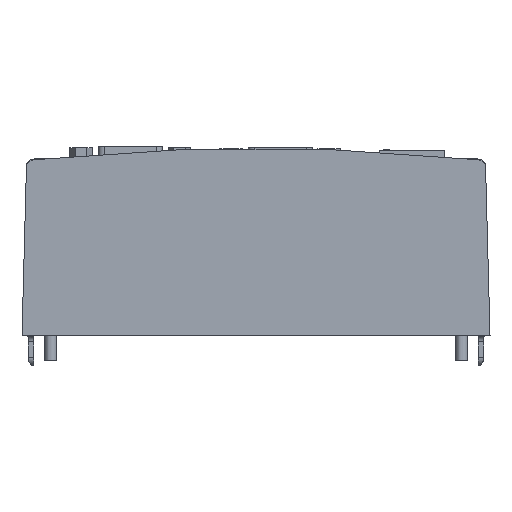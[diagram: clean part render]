
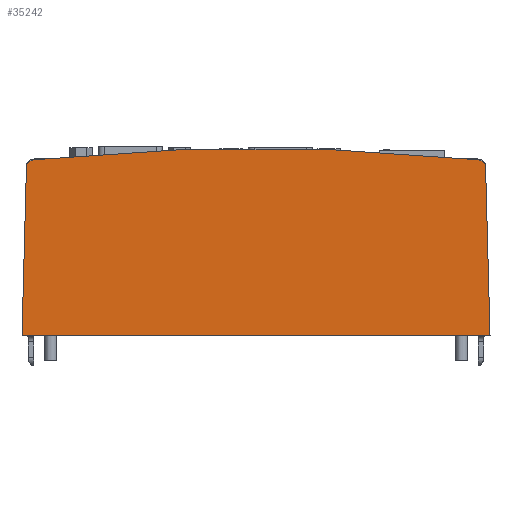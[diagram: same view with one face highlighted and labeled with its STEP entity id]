
A CAD part, left-side view. The second image highlights one B-rep face of the part: STEP entity #35242.
In plain terms, the highlighted planar face has unit normal (-1, 0, 0).
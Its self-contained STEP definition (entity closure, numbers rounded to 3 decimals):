
#1599=PLANE('',#37287);
#3342=FACE_OUTER_BOUND('',#5345,.T.);
#5345=EDGE_LOOP('',(#29841,#29842,#29843,#29844,#29845,#29846));
#9193=LINE('',#57037,#12675);
#9198=LINE('',#57054,#12680);
#9200=LINE('',#57059,#12682);
#12675=VECTOR('',#43703,10.);
#12680=VECTOR('',#43720,10.);
#12682=VECTOR('',#43728,10.);
#13840=CIRCLE('',#37275,2.);
#13844=CIRCLE('',#37282,2.);
#13845=CIRCLE('',#37285,550.);
#16601=VERTEX_POINT('',#57024);
#16602=VERTEX_POINT('',#57025);
#16606=VERTEX_POINT('',#57035);
#16610=VERTEX_POINT('',#57047);
#16611=VERTEX_POINT('',#57048);
#16612=VERTEX_POINT('',#57053);
#21110=EDGE_CURVE('',#16601,#16602,#13840,.T.);
#21116=EDGE_CURVE('',#16606,#16601,#9193,.T.);
#21121=EDGE_CURVE('',#16610,#16611,#13844,.T.);
#21124=EDGE_CURVE('',#16611,#16612,#9198,.T.);
#21126=EDGE_CURVE('',#16602,#16610,#13845,.T.);
#21127=EDGE_CURVE('',#16612,#16606,#9200,.T.);
#29841=ORIENTED_EDGE('',*,*,#21110,.F.);
#29842=ORIENTED_EDGE('',*,*,#21116,.F.);
#29843=ORIENTED_EDGE('',*,*,#21127,.F.);
#29844=ORIENTED_EDGE('',*,*,#21124,.F.);
#29845=ORIENTED_EDGE('',*,*,#21121,.F.);
#29846=ORIENTED_EDGE('',*,*,#21126,.F.);
#35242=ADVANCED_FACE('',(#3342),#1599,.T.);
#37275=AXIS2_PLACEMENT_3D('',#57026,#43693,#43694);
#37282=AXIS2_PLACEMENT_3D('',#57049,#43714,#43715);
#37285=AXIS2_PLACEMENT_3D('',#57057,#43724,#43725);
#37287=AXIS2_PLACEMENT_3D('',#57060,#43729,#43730);
#43693=DIRECTION('center_axis',(1.,0.,0.));
#43694=DIRECTION('ref_axis',(0.,0.734,0.679));
#43703=DIRECTION('',(0.,-0.026,1.));
#43714=DIRECTION('center_axis',(1.,0.,0.));
#43715=DIRECTION('ref_axis',(0.,-0.734,0.679));
#43720=DIRECTION('',(0.,-0.026,-1.));
#43724=DIRECTION('center_axis',(1.,0.,0.));
#43725=DIRECTION('ref_axis',(0.,-0.106,0.994));
#43728=DIRECTION('',(0.,1.,0.));
#43729=DIRECTION('center_axis',(-1.,0.,0.));
#43730=DIRECTION('ref_axis',(0.,0.,
1.));
#57024=CARTESIAN_POINT('',(-27.,110.628,42.844));
#57025=CARTESIAN_POINT('',(-27.,108.835,44.782));
#57026=CARTESIAN_POINT('Origin',(-27.,108.629,42.792));
#57035=CARTESIAN_POINT('',(-27.,111.75,0.));
#57037=CARTESIAN_POINT('',(-27.,110.582,44.598));
#57047=CARTESIAN_POINT('',(-27.,-4.335,44.782));
#57048=CARTESIAN_POINT('',(-27.,-6.128,42.844));
#57049=CARTESIAN_POINT('Origin',(-27.,-4.129,42.792));
#57053=CARTESIAN_POINT('',(-27.,-7.25,0.));
#57054=CARTESIAN_POINT('',(-27.,-7.25,0.));
#57057=CARTESIAN_POINT('Origin',(-27.,52.25,-502.3));
#57059=CARTESIAN_POINT('',(-27.,111.75,0.));
#57060=CARTESIAN_POINT('Origin',(-27.,52.25,22.823));
